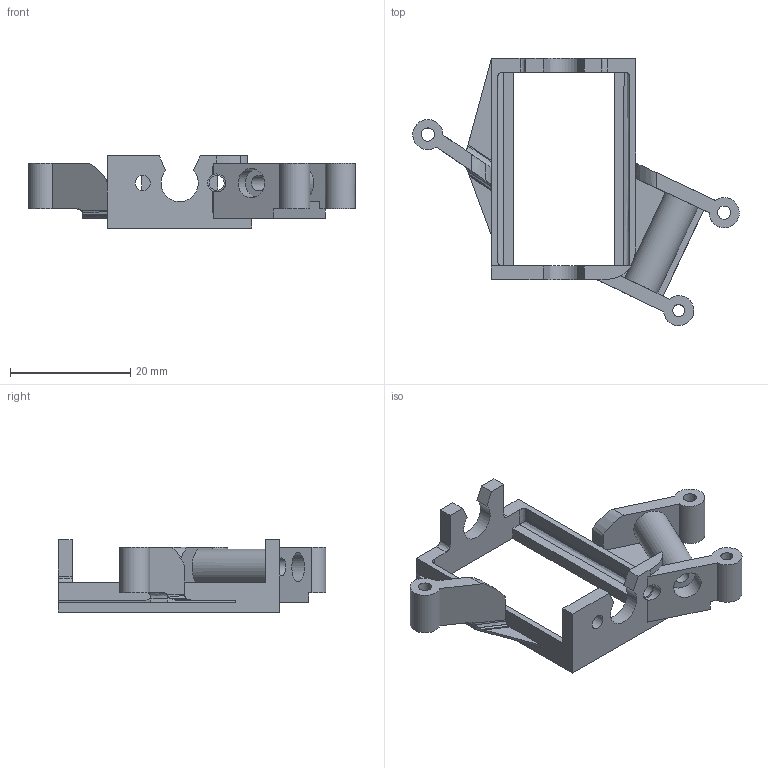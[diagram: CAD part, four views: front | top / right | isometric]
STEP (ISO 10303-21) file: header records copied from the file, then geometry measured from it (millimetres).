
FILE_DESCRIPTION(('Open CASCADE Model'),'2;1');
FILE_NAME('Open CASCADE Shape Model','2026-10-26T19:32:41',('Author'),( 'Open CASCADE'),'Open CASCADE STEP processor 7.9','Open CASCADE 7.9' ,'Unknown');
FILE_SCHEMA(('AUTOMOTIVE_DESIGN { 1 0 10303 214 1 1 1 1 }'));
Length unit declared in the file: millimetre
Products named in the file (1): Open CASCADE STEP translator 7.9 1
Bounding box: 54.25 x 44.43 x 12 mm (x, y, z)
Volume: 3282.1 mm3; surface area: 4303.1 mm2
Topology: 1 solids, 1 shells, 126 faces, 340 edges, 216 vertices
Faces by surface type: plane 82, bspline 29, cylinder 15
Full cylindrical faces by diameter (mm): 2 x1, 2.2 x2, 2.5 x2, 2.6 x1, 3 x1, 4.85 x2
Entity records: 14034 total; most frequent: CARTESIAN_POINT 7849, DIRECTION 918, ORIENTED_EDGE 680, PCURVE 680, DEFINITIONAL_REPRESENTATION 680, LINE 625, VECTOR 625, EDGE_CURVE 340
